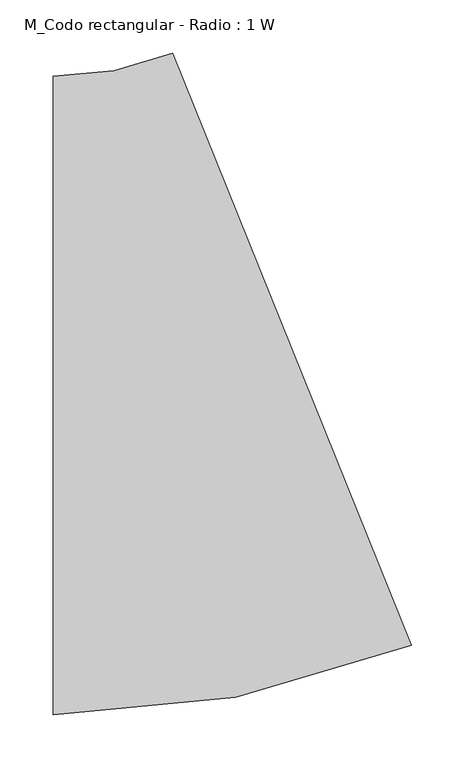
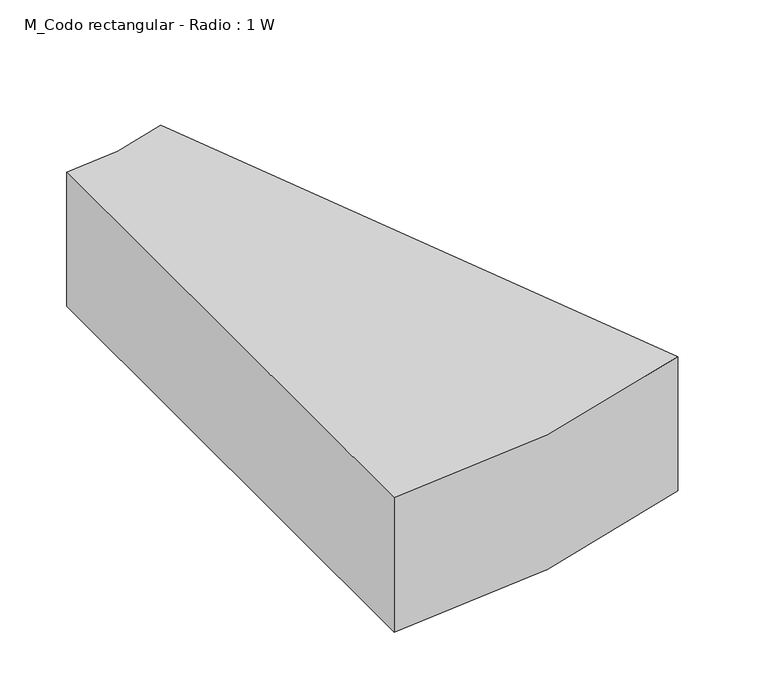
"""IFC4 building model written with IfcOpenShell, lengths in millimetres: duct fitting geometry, M_Codo rectangular - Radio : 1 W."""

from ifc_helpers import new_model, si_unit, point, frame, frame_2d, origin, place, context, project, spatial, polyline, circle_curve, trimmed, segment, composite_curve, outline, extrude, source, transform, mapped, element, save


def m_codo_rectangular_radio_1_w_d326b74b(model_context):
    return source(origin(), model_context, "Body", "SweptSolid", [
        extrude(outline(composite_curve([segment(trimmed(circle_curve(frame_2d((-116.6281855, 600.0)), 900.0), [point((220.5177486, -234.4654691))], [point((-116.6281855, -300.0))], False, "CARTESIAN"), True, "CONTINUOUS"), segment(polyline([(-116.6281855, -300.0), (-116.6281855, 300.0)]), True, "CONTINUOUS"), segment(trimmed(circle_curve(frame_2d((-116.6281855, 600.0)), 300.0), [point((-116.6281855, 300.0))], [point((-4.2462075, 321.8448436))], True, "CARTESIAN"), True, "CONTINUOUS"), segment(polyline([(-4.2462075, 321.8448436), (220.5177486, -234.4654691)]), True, "CONTINUOUS")], self_intersect=False)), frame((0.0, 0.0, -75.0), z_axis=(0.0, 0.0, 1.0), x_axis=(1.0, 0.0, 0.0)), (0.0, 0.0, 1.0), 150.0),
    ])


if __name__ == "__main__":
    model = new_model("IFC4")
    model_context = context("Model", 3, world=origin())
    ifc_project = project(units=[si_unit("LENGTHUNIT", "METRE", prefix="MILLI")], contexts=[model_context])
    site = spatial("IfcSite", under=ifc_project)
    building = spatial("IfcBuilding", under=site)
    placement = place(None, origin())
    m_codo_rectangular_radio_1_w_shape = m_codo_rectangular_radio_1_w_d326b74b(model_context)
    element("IfcDuctFitting", 1, ObjectType="M_Codo rectangular - Radio : 1 W", at=placement, inside=building, context=model_context, shape_type="MappedRepresentation", body=[
        mapped(m_codo_rectangular_radio_1_w_shape, transform((0.0, 0.0, 0.0), x_axis=(1.0, 0.0, 0.0), y_axis=(0.0, 1.0, 0.0), z_axis=(0.0, 0.0, 1.0))),
    ])
    save(model, "model.ifc")
